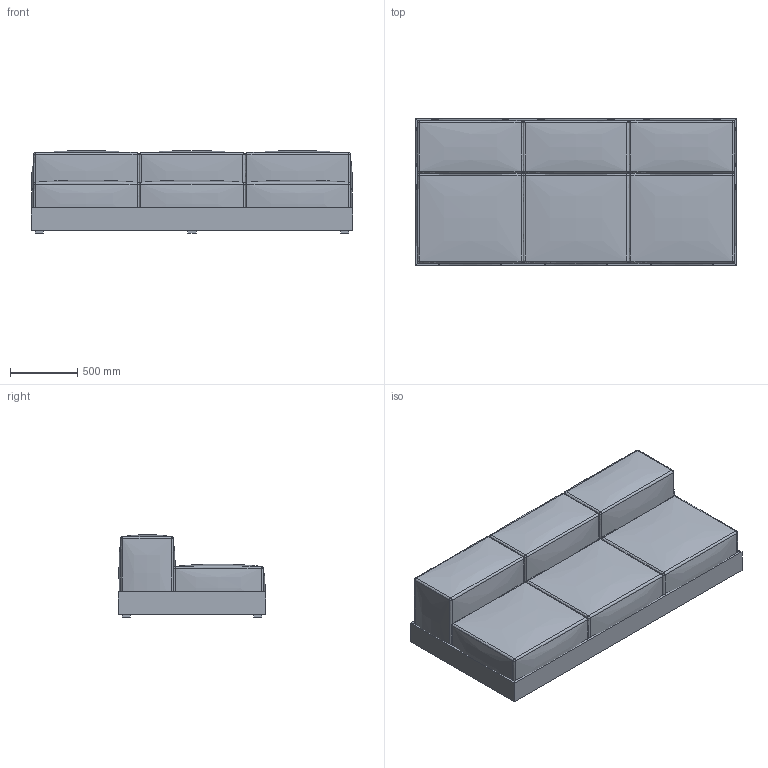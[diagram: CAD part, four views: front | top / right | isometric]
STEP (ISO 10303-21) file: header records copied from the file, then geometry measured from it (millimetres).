
FILE_DESCRIPTION(/* description */ (''),/* implementation_level */ '2;1');
FILE_NAME(/* name */ 'Polp1 240 nob.step',/* time_stamp */ '2024-01-07T10:10:06+01:00',/* author */ (''),/* organization */ (''),/* preprocessor_version */ 'ST-DEVELOPER v20',/* originating_system */ 'Autodesk Translation Framework v12.14.0.127',/* authorisation */ '');
FILE_SCHEMA (('AUTOMOTIVE_DESIGN { 1 0 10303 214 3 1 1 }'));
Length unit declared in the file: millimetre
Products named in the file (7): Polp1 240 nob; Component1; Component2; Component3; Component5; Component6; Component7
Assembly tree (6 placements, depth 2):
  Polp1 240 nob
    Component1
    Component2
    Component3
    Component5
    Component6
    Component7
Bounding box: 2400 x 1100 x 615 mm (x, y, z)
Volume: 1128077010.4 mm3; surface area: 19622653.9 mm2
Topology: 22 solids, 22 shells, 252 faces, 480 edges, 272 vertices
Faces by surface type: plane 113, bspline 76, sphere 48, cylinder 15
Entity records: 14734 total; most frequent: CARTESIAN_POINT 9852, ORIENTED_EDGE 960, DIRECTION 888, EDGE_CURVE 480, AXIS2_PLACEMENT_3D 333, VERTEX_POINT 272, FACE_OUTER_BOUND 252, EDGE_LOOP 252
